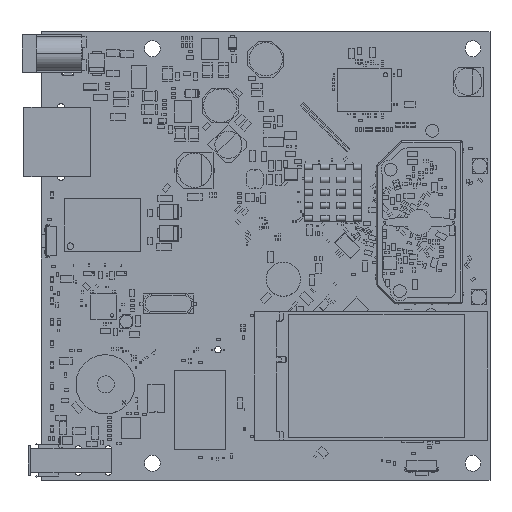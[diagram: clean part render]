
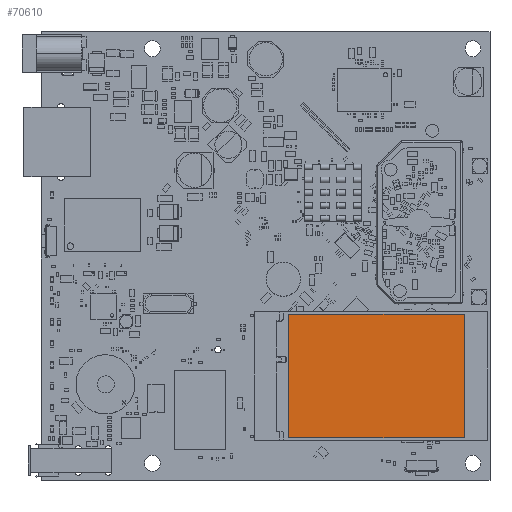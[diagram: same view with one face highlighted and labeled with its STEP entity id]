
A CAD part, top view. The second image highlights one B-rep face of the part: STEP entity #70610.
In plain terms, the highlighted planar face has unit normal (0, 0, 1).
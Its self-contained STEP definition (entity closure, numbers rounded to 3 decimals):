
#2306 = DIRECTION ( 'NONE',  ( -1., 0., 0. ) ) ;
#3973 = LINE ( 'NONE', #58749, #64360 ) ;
#7403 = PLANE ( 'NONE',  #48217 ) ;
#15848 = VERTEX_POINT ( 'NONE', #62149 ) ;
#16977 = EDGE_LOOP ( 'NONE', ( #101257, #31365, #64954, #67084 ) ) ;
#19254 = VERTEX_POINT ( 'NONE', #24434 ) ;
#19336 = DIRECTION ( 'NONE',  ( 0., 1., 0. ) ) ;
#24434 = CARTESIAN_POINT ( 'NONE',  ( 98.942, 9.909, 7.9 ) ) ;
#26368 = VECTOR ( 'NONE', #63480, 1000. ) ;
#31365 = ORIENTED_EDGE ( 'NONE', *, *, #67876, .F. ) ;
#32980 = DIRECTION ( 'NONE',  ( 1., 0., 0. ) ) ;
#37558 = EDGE_CURVE ( 'NONE', #15848, #19254, #95250, .T. ) ;
#40250 = DIRECTION ( 'NONE',  ( 1., 0., 0. ) ) ;
#41225 = LINE ( 'NONE', #41732, #97221 ) ;
#41268 = LINE ( 'NONE', #56139, #92261 ) ;
#41732 = CARTESIAN_POINT ( 'NONE',  ( 98.942, 9.909, 7.9 ) ) ;
#47326 = DIRECTION ( 'NONE',  ( 0., 0., 1. ) ) ;
#48217 = AXIS2_PLACEMENT_3D ( 'NONE', #88287, #47326, #32980 ) ;
#51257 = VERTEX_POINT ( 'NONE', #93168 ) ;
#56139 = CARTESIAN_POINT ( 'NONE',  ( 57.942, 38.909, 7.9 ) ) ;
#58425 = CARTESIAN_POINT ( 'NONE',  ( 57.942, 9.909, 7.9 ) ) ;
#58749 = CARTESIAN_POINT ( 'NONE',  ( 57.942, 9.909, 7.9 ) ) ;
#61140 = EDGE_CURVE ( 'NONE', #97391, #51257, #3973, .T. ) ;
#62149 = CARTESIAN_POINT ( 'NONE',  ( 98.942, 38.909, 7.9 ) ) ;
#63480 = DIRECTION ( 'NONE',  ( 0., -1., 0. ) ) ;
#64360 = VECTOR ( 'NONE', #19336, 1000. ) ;
#64954 = ORIENTED_EDGE ( 'NONE', *, *, #37558, .F. ) ;
#67084 = ORIENTED_EDGE ( 'NONE', *, *, #83955, .F. ) ;
#67876 = EDGE_CURVE ( 'NONE', #19254, #97391, #41225, .T. ) ;
#70610 = ADVANCED_FACE ( 'NONE', ( #77580 ), #7403, .T. ) ;
#77580 = FACE_OUTER_BOUND ( 'NONE', #16977, .T. ) ;
#78860 = CARTESIAN_POINT ( 'NONE',  ( 98.942, 38.909, 7.9 ) ) ;
#83955 = EDGE_CURVE ( 'NONE', #51257, #15848, #41268, .T. ) ;
#88287 = CARTESIAN_POINT ( 'NONE',  ( 98.942, 9.909, 7.9 ) ) ;
#92261 = VECTOR ( 'NONE', #40250, 1000. ) ;
#93168 = CARTESIAN_POINT ( 'NONE',  ( 57.942, 38.909, 7.9 ) ) ;
#95250 = LINE ( 'NONE', #78860, #26368 ) ;
#97221 = VECTOR ( 'NONE', #2306, 1000. ) ;
#97391 = VERTEX_POINT ( 'NONE', #58425 ) ;
#101257 = ORIENTED_EDGE ( 'NONE', *, *, #61140, .F. ) ;
